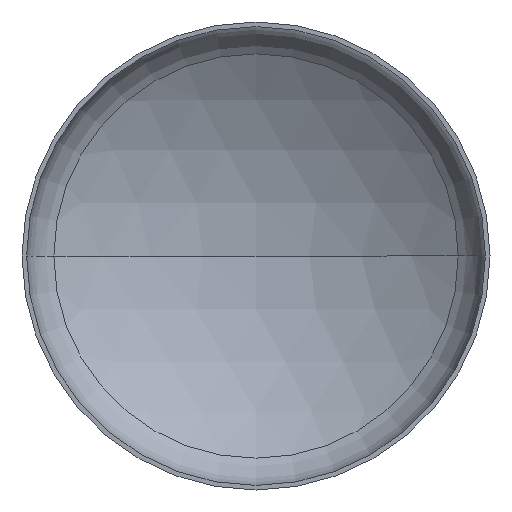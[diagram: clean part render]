
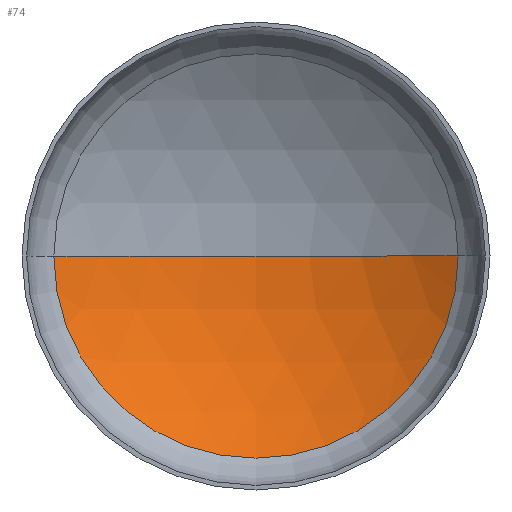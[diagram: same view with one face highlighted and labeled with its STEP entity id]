
A CAD part, front view. The second image highlights one B-rep face of the part: STEP entity #74.
In plain terms, the highlighted spherical face has radius 238.8 mm.
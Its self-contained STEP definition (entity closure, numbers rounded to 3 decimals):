
#13 = ORIENTED_EDGE ( 'NONE', *, *, #259, .F. ) ;
#35 = CARTESIAN_POINT ( 'NONE',  ( -132.186, 35.077, 0. ) ) ;
#36 = CIRCLE ( 'NONE', #258, 132.186 ) ;
#42 = DIRECTION ( 'NONE',  ( 0., 0., 1. ) ) ;
#49 = DIRECTION ( 'NONE',  ( 0., 1., 0. ) ) ;
#52 = FACE_OUTER_BOUND ( 'NONE', #382, .T. ) ;
#57 = DIRECTION ( 'NONE',  ( 1., 0., 0. ) ) ;
#69 = ORIENTED_EDGE ( 'NONE', *, *, #262, .T. ) ;
#74 = ADVANCED_FACE ( 'NONE', ( #52 ), #265, .F. ) ;
#75 = VERTEX_POINT ( 'NONE', #370 ) ;
#90 = DIRECTION ( 'NONE',  ( 0., 0., 1. ) ) ;
#93 = DIRECTION ( 'NONE',  ( 0., 0., -1. ) ) ;
#126 = CARTESIAN_POINT ( 'NONE',  ( 0., 35.077, 0. ) ) ;
#140 = EDGE_CURVE ( 'NONE', #221, #244, #36, .T. ) ;
#173 = CIRCLE ( 'NONE', #371, 238.8 ) ;
#193 = CIRCLE ( 'NONE', #295, 238.8 ) ;
#197 = CARTESIAN_POINT ( 'NONE',  ( 132.186, 35.077, 0. ) ) ;
#221 = VERTEX_POINT ( 'NONE', #197 ) ;
#227 = CARTESIAN_POINT ( 'NONE',  ( 0., -163.8, 0. ) ) ;
#244 = VERTEX_POINT ( 'NONE', #35 ) ;
#249 = CARTESIAN_POINT ( 'NONE',  ( 0., -163.8, 0. ) ) ;
#258 = AXIS2_PLACEMENT_3D ( 'NONE', #126, #49, #400 ) ;
#259 = EDGE_CURVE ( 'NONE', #244, #75, #193, .T. ) ;
#262 = EDGE_CURVE ( 'NONE', #221, #75, #173, .T. ) ;
#265 = SPHERICAL_SURFACE ( 'NONE', #349, 238.8 ) ;
#281 = ORIENTED_EDGE ( 'NONE', *, *, #140, .F. ) ;
#295 = AXIS2_PLACEMENT_3D ( 'NONE', #227, #93, #344 ) ;
#301 = DIRECTION ( 'NONE',  ( -1., 0., 0. ) ) ;
#304 = CARTESIAN_POINT ( 'NONE',  ( 0., -163.8, 0. ) ) ;
#344 = DIRECTION ( 'NONE',  ( -1., 0., 0. ) ) ;
#349 = AXIS2_PLACEMENT_3D ( 'NONE', #304, #90, #301 ) ;
#370 = CARTESIAN_POINT ( 'NONE',  ( 0., 75., 0. ) ) ;
#371 = AXIS2_PLACEMENT_3D ( 'NONE', #249, #42, #57 ) ;
#382 = EDGE_LOOP ( 'NONE', ( #281, #69, #13 ) ) ;
#400 = DIRECTION ( 'NONE',  ( -1., 0., 0. ) ) ;
